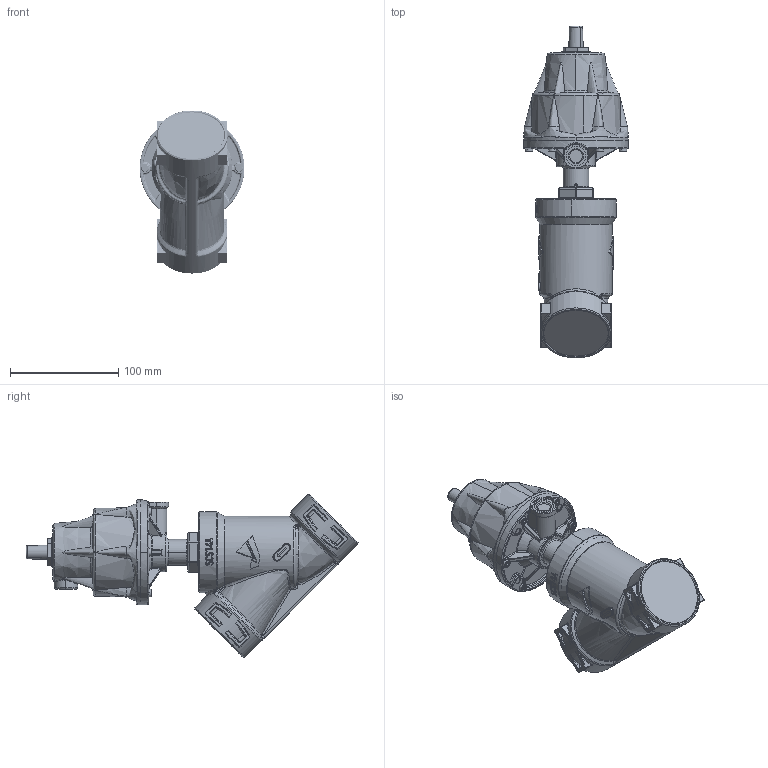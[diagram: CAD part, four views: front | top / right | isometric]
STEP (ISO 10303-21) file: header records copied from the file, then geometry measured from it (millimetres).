
FILE_DESCRIPTION( (''), '2;1');
FILE_NAME ('PC1276.13836.ASV-1000 50A_6793.stp','2025-09-24T09:38:41',(''),(''),'spGate 20.6.3 (****-****-****-****)','','');
FILE_SCHEMA (('AUTOMOTIVE_DESIGN'));
Length unit declared in the file: millimetre
Products named in the file (7): Assembly; Body 50A改1(フロービロー（1000、-C)); 金型屋データPacking case 50A casting; ASV-1000 50A_M1; TORX screw T20M4-16; Actuator cover(ノーマルクローズ); Actuator base
Assembly tree (11 placements, depth 2):
  Assembly
    Body 50A改1(フロービロー（1000、-C))
    金型屋データPacking case 50A casting
    ASV-1000 50A_M1
    TORX screw T20M4-16  x6
    Actuator cover(ノーマルクローズ)
    Actuator base
Bounding box: 97 x 307.41 x 150.97 mm (x, y, z)
Volume: 1237069.5 mm3; surface area: 135550.7 mm2
Topology: 11 solids, 11 shells, 1833 faces, 4613 edges, 2745 vertices
Faces by surface type: bspline 732, cylinder 713, plane 304, sphere 84
Entity records: 105310 total; most frequent: CARTESIAN_POINT 50573, ORIENTED_EDGE 6684, COLOUR_RGB 4776, PRESENTATION_STYLE_ASSIGNMENT 4776, STYLED_ITEM 4776, DIRECTION 4635, EDGE_CURVE 3342, DRAUGHTING_PRE_DEFINED_CURVE_FONT 3342
